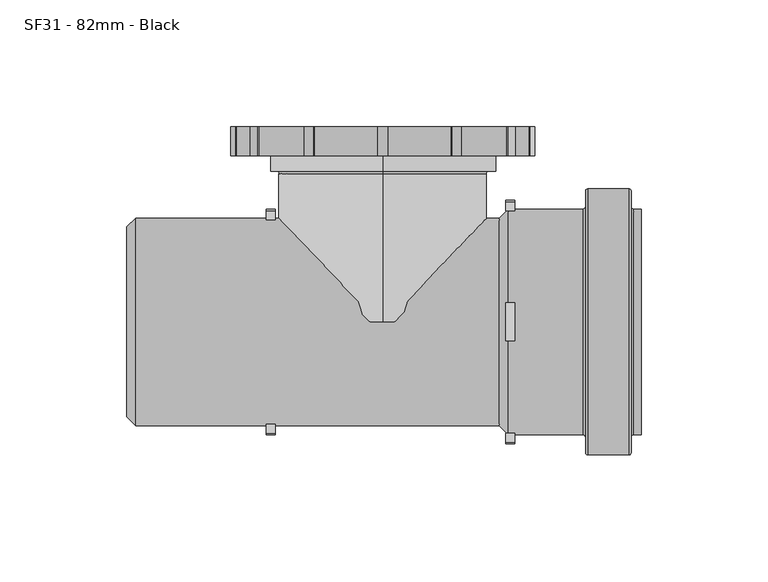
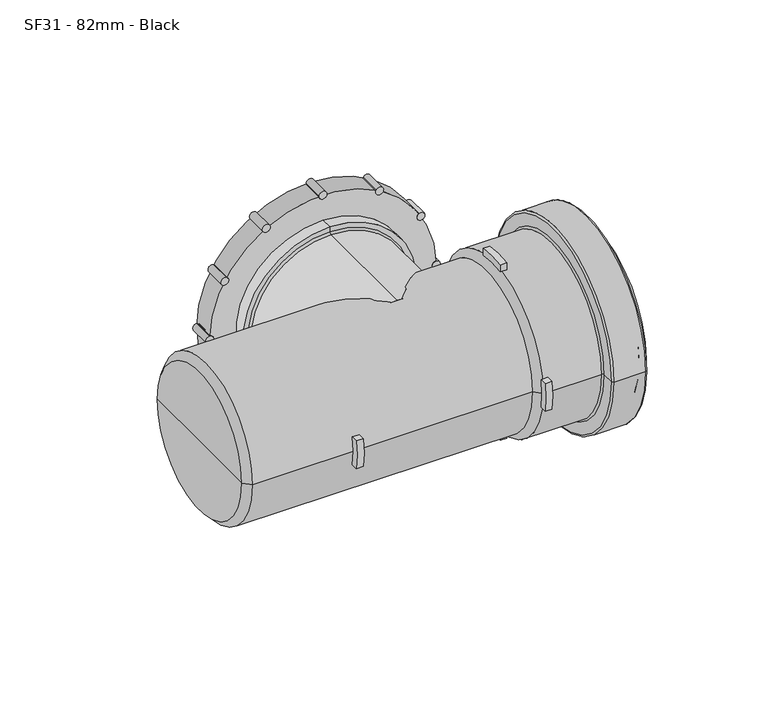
"""IFC4 building model written with IfcOpenShell, lengths in millimetres: pipe fitting geometry, MarleyPlumbingAndDrainage_PipeFitting_AccessPipe_SF31 : SF31 - 82mm - Black."""

from ifc_helpers import new_model, si_unit, point, frame, frame_2d, origin, origin_2d, place, context, project, spatial, polyline, circle_curve, ellipse_curve, trimmed, segment, composite_curve, outline, extrude, source, transform, mapped, element, save
from ifc_brep_helpers import plane_surface, cylinder_surface, revolved_surface, advanced_brep


def sf31_82mm_black_a28e41e7(model_context):
    return source(origin(), model_context, "Body", "SolidModel", [
        extrude(outline(composite_curve([segment(trimmed(circle_curve(frame_2d((29.0, -563.5247898)), 2.0), [point((30.7320508, -562.5247898))], [point((27.2679492, -564.5247898))], False, "CARTESIAN"), True, "CONTINUOUS"), segment(trimmed(circle_curve(frame_2d((29.0, -563.5247898)), 2.0), [point((27.2679492, -564.5247898))], [point((30.7320508, -562.5247898))], False, "CARTESIAN"), True, "CONTINUOUS")], self_intersect=False)), frame((0.0, 65.5, 0.0), z_axis=(0.0, 1.0, 0.0), x_axis=(0.0, 0.0, 1.0)), (0.0, 0.0, 1.0), 11.5),
        extrude(outline(composite_curve([segment(trimmed(circle_curve(frame_2d((0.0, -571.2953164)), 2.0), [point((2.0, -571.2953164))], [point((-2.0, -571.2953164))], False, "CARTESIAN"), True, "CONTINUOUS"), segment(trimmed(circle_curve(frame_2d((0.0, -571.2953164)), 2.0), [point((-2.0, -571.2953164))], [point((2.0, -571.2953164))], False, "CARTESIAN"), True, "CONTINUOUS")], self_intersect=False)), frame((0.0, 65.5, 0.0), z_axis=(0.0, 1.0, 0.0), x_axis=(0.0, 0.0, 1.0)), (0.0, 0.0, 1.0), 11.5),
        extrude(outline(composite_curve([segment(trimmed(circle_curve(frame_2d((-29.0, -563.5247898)), 2.0), [point((-27.2679492, -564.5247898))], [point((-30.7320508, -562.5247898))], False, "CARTESIAN"), True, "CONTINUOUS"), segment(trimmed(circle_curve(frame_2d((-29.0, -563.5247898)), 2.0), [point((-30.7320508, -562.5247898))], [point((-27.2679492, -564.5247898))], False, "CARTESIAN"), True, "CONTINUOUS")], self_intersect=False)), frame((0.0, 65.5, 0.0), z_axis=(0.0, 1.0, 0.0), x_axis=(0.0, 0.0, 1.0)), (0.0, 0.0, 1.0), 11.5),
        extrude(outline(composite_curve([segment(trimmed(circle_curve(frame_2d((-50.2294734, -542.2953164)), 2.0), [point((-49.2294734, -544.0273672))], [point((-51.2294734, -540.5632656))], False, "CARTESIAN"), True, "CONTINUOUS"), segment(trimmed(circle_curve(frame_2d((-50.2294734, -542.2953164)), 2.0), [point((-51.2294734, -540.5632656))], [point((-49.2294734, -544.0273672))], False, "CARTESIAN"), True, "CONTINUOUS")], self_intersect=False)), frame((0.0, 65.5, 0.0), z_axis=(0.0, 1.0, 0.0), x_axis=(0.0, 0.0, 1.0)), (0.0, 0.0, 1.0), 11.5),
        extrude(outline(composite_curve([segment(trimmed(circle_curve(frame_2d((-58.0, -513.2953164)), 2.0), [point((-58.0, -515.2953164))], [point((-58.0, -511.2953164))], False, "CARTESIAN"), True, "CONTINUOUS"), segment(trimmed(circle_curve(frame_2d((-58.0, -513.2953164)), 2.0), [point((-58.0, -511.2953164))], [point((-58.0, -515.2953164))], False, "CARTESIAN"), True, "CONTINUOUS")], self_intersect=False)), frame((0.0, 65.5, 0.0), z_axis=(0.0, 1.0, 0.0), x_axis=(0.0, 0.0, 1.0)), (0.0, 0.0, 1.0), 11.5),
        extrude(outline(composite_curve([segment(trimmed(circle_curve(frame_2d((-50.2294734, -484.2953164)), 2.0), [point((-51.2294734, -486.0273672))], [point((-49.2294734, -482.5632656))], False, "CARTESIAN"), True, "CONTINUOUS"), segment(trimmed(circle_curve(frame_2d((-50.2294734, -484.2953164)), 2.0), [point((-49.2294734, -482.5632656))], [point((-51.2294734, -486.0273672))], False, "CARTESIAN"), True, "CONTINUOUS")], self_intersect=False)), frame((0.0, 65.5, 0.0), z_axis=(0.0, 1.0, 0.0), x_axis=(0.0, 0.0, 1.0)), (0.0, 0.0, 1.0), 11.5),
        extrude(outline(composite_curve([segment(trimmed(circle_curve(frame_2d((-29.0, -463.065843)), 2.0), [point((-30.7320508, -464.065843))], [point((-27.2679492, -462.065843))], False, "CARTESIAN"), True, "CONTINUOUS"), segment(trimmed(circle_curve(frame_2d((-29.0, -463.065843)), 2.0), [point((-27.2679492, -462.065843))], [point((-30.7320508, -464.065843))], False, "CARTESIAN"), True, "CONTINUOUS")], self_intersect=False)), frame((0.0, 65.5, 0.0), z_axis=(0.0, 1.0, 0.0), x_axis=(0.0, 0.0, 1.0)), (0.0, 0.0, 1.0), 11.5),
        extrude(outline(composite_curve([segment(trimmed(circle_curve(frame_2d((0.0, -455.2953164)), 2.0), [point((-2.0, -455.2953164))], [point((2.0, -455.2953164))], False, "CARTESIAN"), True, "CONTINUOUS"), segment(trimmed(circle_curve(frame_2d((0.0, -455.2953164)), 2.0), [point((2.0, -455.2953164))], [point((-2.0, -455.2953164))], False, "CARTESIAN"), True, "CONTINUOUS")], self_intersect=False)), frame((0.0, 65.5, 0.0), z_axis=(0.0, 1.0, 0.0), x_axis=(0.0, 0.0, 1.0)), (0.0, 0.0, 1.0), 11.5),
        extrude(outline(composite_curve([segment(trimmed(circle_curve(frame_2d((29.0, -463.065843)), 2.0), [point((27.2679492, -462.065843))], [point((30.7320508, -464.065843))], False, "CARTESIAN"), True, "CONTINUOUS"), segment(trimmed(circle_curve(frame_2d((29.0, -463.065843)), 2.0), [point((30.7320508, -464.065843))], [point((27.2679492, -462.065843))], False, "CARTESIAN"), True, "CONTINUOUS")], self_intersect=False)), frame((0.0, 65.5, 0.0), z_axis=(0.0, 1.0, 0.0), x_axis=(0.0, 0.0, 1.0)), (0.0, 0.0, 1.0), 11.5),
        extrude(outline(composite_curve([segment(trimmed(circle_curve(frame_2d((50.2294734, -484.2953164)), 2.0), [point((49.2294734, -482.5632656))], [point((51.2294734, -486.0273672))], False, "CARTESIAN"), True, "CONTINUOUS"), segment(trimmed(circle_curve(frame_2d((50.2294734, -484.2953164)), 2.0), [point((51.2294734, -486.0273672))], [point((49.2294734, -482.5632656))], False, "CARTESIAN"), True, "CONTINUOUS")], self_intersect=False)), frame((0.0, 65.5, 0.0), z_axis=(0.0, 1.0, 0.0), x_axis=(0.0, 0.0, 1.0)), (0.0, 0.0, 1.0), 11.5),
        extrude(outline(composite_curve([segment(trimmed(circle_curve(frame_2d((50.2294734, -542.2953164)), 2.0), [point((51.2294734, -540.5632656))], [point((49.2294734, -544.0273672))], False, "CARTESIAN"), True, "CONTINUOUS"), segment(trimmed(circle_curve(frame_2d((50.2294734, -542.2953164)), 2.0), [point((49.2294734, -544.0273672))], [point((51.2294734, -540.5632656))], False, "CARTESIAN"), True, "CONTINUOUS")], self_intersect=False)), frame((0.0, 65.5, 0.0), z_axis=(0.0, 1.0, 0.0), x_axis=(0.0, 0.0, 1.0)), (0.0, 0.0, 1.0), 11.5),
        extrude(outline(composite_curve([segment(trimmed(circle_curve(frame_2d((58.0, -513.2953164)), 2.0), [point((58.0, -511.2953164))], [point((58.0, -515.2953164))], False, "CARTESIAN"), True, "CONTINUOUS"), segment(trimmed(circle_curve(frame_2d((58.0, -513.2953164)), 2.0), [point((58.0, -515.2953164))], [point((58.0, -511.2953164))], False, "CARTESIAN"), True, "CONTINUOUS")], self_intersect=False)), frame((0.0, 65.5, 0.0), z_axis=(0.0, 1.0, 0.0), x_axis=(0.0, 0.0, 1.0)), (0.0, 0.0, 1.0), 11.5),
        advanced_brep(
        [(-455.2953164, 77.0, 0.0), (-571.2953164, 77.0, 0.0), (-492.4390693, 77.0, -50.3514345), (-493.7784613, 77.0, -47.1178562), (-532.8121714, 77.0, -47.1178562), (-534.1515635, 77.0, -50.3514345), (-563.6467509, 77.0, -20.8562471), (-560.4131726, 77.0, -19.5168551), (-560.4131726, 77.0, 19.5168551), (-563.6467509, 77.0, 20.8562471), (-466.1774602, 77.0, 19.5168551), (-466.1774602, 77.0, -19.5168551), (-462.9438819, 77.0, -20.8562471), (-462.9438819, 77.0, 20.8562471), (-493.7784613, 77.0, 47.1178562), (-492.4390693, 77.0, 50.3514345), (-534.1515635, 77.0, 50.3514345), (-532.8121714, 77.0, 47.1178562), (-455.2953164, 65.5, 0.0), (-571.2953164, 65.5, 0.0), (-513.2953164, 65.5, -44.5), (-513.2953164, 65.5, 44.5), (-493.7784613, 71.0, -47.1178562), (-492.4390693, 71.0, -50.3514345), (-534.1515635, 71.0, -50.3514345), (-532.8121714, 71.0, -47.1178562), (-560.4131726, 71.0, -19.5168551), (-563.6467509, 71.0, -20.8562471), (-563.6467509, 71.0, 20.8562471), (-560.4131726, 71.0, 19.5168551), (-466.1774602, 71.0, -19.5168551), (-466.1774602, 71.0, 19.5168551), (-462.9438819, 71.0, 20.8562471), (-462.9438819, 71.0, -20.8562471), (-492.4390693, 71.0, 50.3514345), (-493.7784613, 71.0, 47.1178562), (-532.8121714, 71.0, 47.1178562), (-534.1515635, 71.0, 50.3514345), (-513.2953164, 59.5, -44.5), (-513.2953164, 59.5, 44.5), (-513.2953164, 59.5, -42.0), (-513.2953164, 59.5, 42.0), (-513.2953164, 58.5, -41.0), (-513.2953164, 58.5, 41.0), (-513.2953164, 0.0, -41.0), (-513.2953164, 0.0, 41.0), (-513.2953164, 0.0, 0.0)],
        [
            (0, 1, circle_curve(frame((-513.2953164, 77.0, 0.0), z_axis=(0.0, 1.0, 0.0), x_axis=(-1.0000000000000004, 0.0, 0.0)), 58.0)),
            (1, 0, circle_curve(frame((-513.2953164, 77.0, 0.0), z_axis=(0.0, 1.0, 0.0), x_axis=(-1.0000000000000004, 0.0, 0.0)), 58.0)),
            (2, 3),
            (3, 4, circle_curve(frame((-513.2953164, 77.0, 0.0), z_axis=(0.0, 1.0, 0.0), x_axis=(-1.0000000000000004, 0.0, 0.0)), 51.0)),
            (4, 5),
            (5, 2, circle_curve(frame((-513.2953164, 77.0, 0.0), z_axis=(0.0, -1.0, 0.0), x_axis=(-1.0000000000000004, 0.0, 0.0)), 54.5)),
            (6, 7),
            (7, 8, circle_curve(frame((-513.2953164, 77.0, 0.0), z_axis=(0.0, 1.0, 0.0), x_axis=(-1.0000000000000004, 0.0, 0.0)), 51.0)),
            (8, 9),
            (9, 6, circle_curve(frame((-513.2953164, 77.0, 0.0), z_axis=(0.0, -1.0, 0.0), x_axis=(-1.0000000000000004, 0.0, 0.0)), 54.5)),
            (10, 11, circle_curve(frame((-513.2953164, 77.0, 0.0), z_axis=(0.0, 1.0, 0.0), x_axis=(-1.0000000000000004, 0.0, 0.0)), 51.0)),
            (11, 12),
            (12, 13, circle_curve(frame((-513.2953164, 77.0, 0.0), z_axis=(0.0, -1.0, 0.0), x_axis=(-1.0000000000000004, 0.0, 0.0)), 54.5)),
            (13, 10),
            (14, 15),
            (15, 16, circle_curve(frame((-513.2953164, 77.0, 0.0), z_axis=(0.0, -1.0, 0.0), x_axis=(-1.0000000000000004, 0.0, 0.0)), 54.5)),
            (16, 17),
            (17, 14, circle_curve(frame((-513.2953164, 77.0, 0.0), z_axis=(0.0, 1.0, 0.0), x_axis=(-1.0000000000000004, 0.0, 0.0)), 51.0)),
            (18, 19, circle_curve(frame((-513.2953164, 65.5, 0.0), z_axis=(0.0, -1.0, 0.0), x_axis=(-1.0000000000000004, 0.0, 0.0)), 58.0)),
            (19, 18, circle_curve(frame((-513.2953164, 65.5, 0.0), z_axis=(0.0, -1.0, 0.0), x_axis=(-1.0000000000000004, 0.0, 0.0)), 58.0)),
            (20, 21, circle_curve(frame((-513.2953164, 65.5, 0.0), z_axis=(0.0, 1.0, 0.0), x_axis=(0.0, 0.0, 1.0000000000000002)), 44.5)),
            (21, 20, circle_curve(frame((-513.2953164, 65.5, 0.0), z_axis=(0.0, 1.0, 0.0), x_axis=(0.0, 0.0, 1.0000000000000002)), 44.5)),
            (0, 18),
            (19, 1),
            (22, 23),
            (23, 24, circle_curve(frame((-513.2953164, 71.0, 0.0), z_axis=(0.0, 1.0, 0.0), x_axis=(-1.0000000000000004, 0.0, 0.0)), 54.5)),
            (24, 25),
            (25, 22, circle_curve(frame((-513.2953164, 71.0, 0.0), z_axis=(0.0, -1.0, 0.0), x_axis=(-1.0000000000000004, 0.0, 0.0)), 51.0)),
            (26, 27),
            (27, 28, circle_curve(frame((-513.2953164, 71.0, 0.0), z_axis=(0.0, 1.0, 0.0), x_axis=(-1.0000000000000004, 0.0, 0.0)), 54.5)),
            (28, 29),
            (29, 26, circle_curve(frame((-513.2953164, 71.0, 0.0), z_axis=(0.0, -1.0, 0.0), x_axis=(-1.0000000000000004, 0.0, 0.0)), 51.0)),
            (30, 31, circle_curve(frame((-513.2953164, 71.0, 0.0), z_axis=(0.0, -1.0, 0.0), x_axis=(-1.0000000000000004, 0.0, 0.0)), 51.0)),
            (31, 32),
            (32, 33, circle_curve(frame((-513.2953164, 71.0, 0.0), z_axis=(0.0, 1.0, 0.0), x_axis=(-1.0000000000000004, 0.0, 0.0)), 54.5)),
            (33, 30),
            (34, 35),
            (35, 36, circle_curve(frame((-513.2953164, 71.0, 0.0), z_axis=(0.0, -1.0, 0.0), x_axis=(-1.0000000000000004, 0.0, 0.0)), 51.0)),
            (36, 37),
            (37, 34, circle_curve(frame((-513.2953164, 71.0, 0.0), z_axis=(0.0, 1.0, 0.0), x_axis=(-1.0000000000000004, 0.0, 0.0)), 54.5)),
            (22, 3),
            (2, 23),
            (5, 24),
            (4, 25),
            (26, 7),
            (6, 27),
            (9, 28),
            (8, 29),
            (30, 11),
            (10, 31),
            (13, 32),
            (12, 33),
            (34, 15),
            (14, 35),
            (17, 36),
            (16, 37),
            (38, 39, circle_curve(frame((-513.2953164, 59.5, 0.0), z_axis=(0.0, 1.0, 0.0), x_axis=(0.0, 0.0, 1.0000000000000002)), 44.5)),
            (39, 21),
            (20, 38),
            (39, 38, circle_curve(frame((-513.2953164, 59.5, 0.0), z_axis=(0.0, 1.0, 0.0), x_axis=(0.0, 0.0, 1.0000000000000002)), 44.5)),
            (38, 40),
            (40, 41, circle_curve(frame((-513.2953164, 59.5, 0.0), z_axis=(0.0, 1.0, 0.0), x_axis=(0.0, 0.0, 1.0000000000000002)), 42.0)),
            (41, 39),
            (41, 40, circle_curve(frame((-513.2953164, 59.5, 0.0), z_axis=(0.0, 1.0, 0.0), x_axis=(0.0, 0.0, 1.0000000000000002)), 42.0)),
            (40, 42, circle_curve(frame((-513.2953164, 58.5, -42.0), z_axis=(1.0000000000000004, 0.0, 0.0), x_axis=(0.0, 1.0000000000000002, 0.0)), 1.0)),
            (42, 43, circle_curve(frame((-513.2953164, 58.5, 0.0), z_axis=(0.0, 1.0, 0.0), x_axis=(0.0, 0.0, 1.0000000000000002)), 41.0)),
            (43, 41, circle_curve(frame((-513.2953164, 58.5, 42.0), z_axis=(1.0000000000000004, 0.0, 0.0), x_axis=(0.0, 1.0000000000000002, 0.0)), 1.0)),
            (43, 42, circle_curve(frame((-513.2953164, 58.5, 0.0), z_axis=(0.0, 1.0, 0.0), x_axis=(0.0, 0.0, 1.0000000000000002)), 41.0)),
            (42, 44),
            (44, 45, circle_curve(frame((-513.2953164, 0.0, 0.0), z_axis=(0.0, 1.0, 0.0), x_axis=(0.0, 0.0, 1.0000000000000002)), 41.0)),
            (45, 43),
            (45, 44, circle_curve(frame((-513.2953164, 0.0, 0.0), z_axis=(0.0, 1.0, 0.0), x_axis=(0.0, 0.0, 1.0000000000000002)), 41.0)),
            (44, 46),
            (46, 45),
        ],
        [
            plane_surface(frame((-571.2953164, 77.0, 0.0), z_axis=(0.0, 1.0, 0.0), x_axis=(0.0, 0.0, 1.0))),
            plane_surface(frame((-571.2953164, 65.5, 0.0), z_axis=(0.0, -1.0, 0.0), x_axis=(0.0, 0.0, -1.0))),
            cylinder_surface(frame((-513.2953164, 65.5, 0.0), z_axis=(0.0, 1.0000000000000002, 0.0), x_axis=(-1.0000000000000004, 0.0, 0.0)), 58.0),
            plane_surface(frame((-492.4390693, 71.0, -50.3514345), z_axis=(0.0, 1.0, 0.0), x_axis=(-0.3826834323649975, 0.0, 0.923879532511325))),
            plane_surface(frame((-493.7784613, 77.0, -47.1178562), z_axis=(-0.923879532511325, 0.0, -0.3826834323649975), x_axis=(0.0, -1.0, 0.0))),
            revolved_surface(polyline([(-567.7953164, 77.0, 0.0), (-567.7953164, 71.0, 0.0)]), (-513.2953164, 71.0, 0.0), (0.0, 1.0000000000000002, 0.0)),
            plane_surface(frame((-534.1515635, 77.0, -50.3514345), z_axis=(0.9238795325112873, 0.0, -0.3826834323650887), x_axis=(0.0, -1.0, 0.0))),
            cylinder_surface(frame((-513.2953164, 71.0, 0.0), z_axis=(0.0, -1.0000000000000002, 0.0), x_axis=(-1.0000000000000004, 0.0, 0.0)), 51.0),
            plane_surface(frame((-560.4131726, 77.0, -19.5168551), z_axis=(-0.3826834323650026, 0.0, 0.9238795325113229), x_axis=(0.0, -1.0, 0.0))),
            revolved_surface(polyline([(-567.7953164, 77.0, 0.0), (-567.7953164, 71.0, 0.0)]), (-513.2953164, 65.5, 0.0), (0.0, 1.0000000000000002, 0.0)),
            plane_surface(frame((-563.6467509, 77.0, 20.8562471), z_axis=(-0.38268343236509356, 0.0, -0.9238795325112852), x_axis=(0.0, -1.0, 0.0))),
            cylinder_surface(frame((-513.2953164, 65.5, 0.0), z_axis=(0.0, -1.0000000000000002, 0.0), x_axis=(-1.0000000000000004, 0.0, 0.0)), 51.0),
            plane_surface(frame((-466.1774602, 77.0, 19.5168551), z_axis=(0.3826834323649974, 0.0, -0.923879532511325), x_axis=(0.0, -1.0, 0.0))),
            plane_surface(frame((-462.9438819, 77.0, -20.8562471), z_axis=(0.3826834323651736, 0.0, 0.923879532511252), x_axis=(0.0, -1.0, 0.0))),
            plane_surface(frame((-492.4390693, 77.0, 50.3514345), z_axis=(-0.9238795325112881, 0.0, 0.38268343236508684), x_axis=(0.0, -1.0, 0.0))),
            plane_surface(frame((-532.8121714, 77.0, 47.1178562), z_axis=(0.9238795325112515, 0.0, 0.382683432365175), x_axis=(0.0, -1.0, 0.0))),
            cylinder_surface(frame((-513.2953164, -1158.344146, 0.0), z_axis=(0.0, -1.0000000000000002, 0.0), x_axis=(0.0, 0.0, 1.0000000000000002)), 44.5),
            plane_surface(frame((-513.2953164, 59.5, 0.0), z_axis=(0.0, -1.0, 0.0), x_axis=(0.0, 0.0, 1.0))),
            revolved_surface(trimmed(ellipse_curve(frame((-513.2953164, 58.5, 42.0), z_axis=(-1.0000000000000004, 0.0, 0.0), x_axis=(0.0, 1.0000000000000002, 0.0)), 1.0, 1.0), [point((-513.2953164, 59.5, 42.0))], [point((-513.2953164, 58.5, 41.0))], True, "CARTESIAN"), (-513.2953164, -1158.344146, 0.0), (0.0, -1.0000000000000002, 0.0)),
            cylinder_surface(frame((-513.2953164, -1158.344146, 0.0), z_axis=(0.0, -1.0000000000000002, 0.0), x_axis=(0.0, 0.0, 1.0000000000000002)), 41.0),
            plane_surface(frame((-513.2953164, 0.0, 0.0), z_axis=(0.0, -1.0, 0.0), x_axis=(0.0, 0.0, 1.0))),
        ],
        [
            (0, [[1, 2], [3, 4, 5, 6], [7, 8, 9, 10], [11, 12, 13, 14], [15, 16, 17, 18]]),
            (1, [[19, 20], [21, 22]]),
            (2, [[-1, 23, -20, 24]]),
            (2, [[-2, -24, -19, -23]]),
            (3, [[25, 26, 27, 28]]),
            (3, [[29, 30, 31, 32]]),
            (3, [[33, 34, 35, 36]]),
            (3, [[37, 38, 39, 40]]),
            (4, [[-25, 41, -3, 42]]),
            (5, [[-26, -42, -6, 43]]),
            (6, [[-27, -43, -5, 44]]),
            (7, [[-28, -44, -4, -41]]),
            (8, [[-29, 45, -7, 46]]),
            (9, [[-30, -46, -10, 47]]),
            (10, [[-31, -47, -9, 48]]),
            (11, [[-32, -48, -8, -45]]),
            (11, [[-33, 49, -11, 50]]),
            (12, [[-34, -50, -14, 51]]),
            (9, [[-35, -51, -13, 52]]),
            (13, [[-36, -52, -12, -49]]),
            (14, [[-37, 53, -15, 54]]),
            (11, [[-38, -54, -18, 55]]),
            (15, [[-39, -55, -17, 56]]),
            (9, [[-40, -56, -16, -53]]),
            (16, [[57, 58, -21, 59]]),
            (16, [[-58, 60, -59, -22]]),
            (17, [[-57, 61, 62, 63]]),
            (17, [[-60, -63, 64, -61]]),
            (18, [[-62, 65, 66, 67]]),
            (18, [[-64, -67, 68, -65]]),
            (19, [[-66, 69, 70, 71]]),
            (19, [[-68, -71, 72, -69]]),
            (20, [[-70, 73, 74]]),
            (20, [[-72, -74, -73]]),
        ],
    ),
        extrude(outline(composite_curve([segment(trimmed(circle_curve(origin_2d(), 41.0), [point((-7.5, -40.3081878))], [point((7.5, -40.3081878))], True, "CARTESIAN"), True, "CONTINUOUS"), segment(polyline([(7.5, -40.3081878), (7.5, -43.8634244)]), True, "CONTINUOUS"), segment(trimmed(circle_curve(origin_2d(), 44.5), [point((7.5, -43.8634244))], [point((-7.5, -43.8634244))], False, "CARTESIAN"), True, "CONTINUOUS"), segment(polyline([(-7.5, -43.8634244), (-7.5, -40.3081878)]), True, "CONTINUOUS")], self_intersect=False)), frame((-559.2953164, 0.0, 0.0), z_axis=(1.0, 0.0, 0.0), x_axis=(0.0, 1.0, 0.0)), (0.0, 0.0, 1.0), 3.5),
        extrude(outline(composite_curve([segment(polyline([(40.3081878, 7.5), (43.8634244, 7.5)]), True, "CONTINUOUS"), segment(trimmed(circle_curve(origin_2d(), 44.5), [point((43.8634244, 7.5))], [point((43.8634244, -7.5))], False, "CARTESIAN"), True, "CONTINUOUS"), segment(polyline([(43.8634244, -7.5), (40.3081878, -7.5)]), True, "CONTINUOUS"), segment(trimmed(circle_curve(origin_2d(), 41.0), [point((40.3081878, -7.5))], [point((40.3081878, 7.5))], True, "CARTESIAN"), True, "CONTINUOUS")], self_intersect=False)), frame((-559.2953164, 0.0, 0.0), z_axis=(1.0, 0.0, 0.0), x_axis=(0.0, 1.0, 0.0)), (0.0, 0.0, 1.0), 3.5),
        extrude(outline(composite_curve([segment(polyline([(-43.8634244, 7.5), (-40.3081878, 7.5)]), True, "CONTINUOUS"), segment(trimmed(circle_curve(origin_2d(), 41.0), [point((-40.3081878, 7.5))], [point((-40.3081878, -7.5))], True, "CARTESIAN"), True, "CONTINUOUS"), segment(polyline([(-40.3081878, -7.5), (-43.8634244, -7.5)]), True, "CONTINUOUS"), segment(trimmed(circle_curve(origin_2d(), 44.5), [point((-43.8634244, -7.5))], [point((-43.8634244, 7.5))], False, "CARTESIAN"), True, "CONTINUOUS")], self_intersect=False)), frame((-559.2953164, 0.0, 0.0), z_axis=(1.0, 0.0, 0.0), x_axis=(0.0, 1.0, 0.0)), (0.0, 0.0, 1.0), 3.5),
        extrude(outline(composite_curve([segment(trimmed(circle_curve(origin_2d(), 48.0), [point((-7.5, 47.4104419))], [point((7.5, 47.4104419))], False, "CARTESIAN"), True, "CONTINUOUS"), segment(polyline([(7.5, 47.4104419), (7.5, 43.8634244)]), True, "CONTINUOUS"), segment(trimmed(circle_curve(origin_2d(), 44.5), [point((7.5, 43.8634244))], [point((-7.5, 43.8634244))], True, "CARTESIAN"), True, "CONTINUOUS"), segment(polyline([(-7.5, 43.8634244), (-7.5, 47.4104419)]), True, "CONTINUOUS")], self_intersect=False)), frame((-464.7953164, 0.0, 0.0), z_axis=(1.0, 0.0, 0.0), x_axis=(0.0, 1.0, 0.0)), (0.0, 0.0, 1.0), 3.5),
        extrude(outline(composite_curve([segment(polyline([(43.8634244, 7.5), (47.4104419, 7.5)]), True, "CONTINUOUS"), segment(trimmed(circle_curve(origin_2d(), 48.0), [point((47.4104419, 7.5))], [point((47.4104419, -7.5))], False, "CARTESIAN"), True, "CONTINUOUS"), segment(polyline([(47.4104419, -7.5), (43.8634244, -7.5)]), True, "CONTINUOUS"), segment(trimmed(circle_curve(origin_2d(), 44.5), [point((43.8634244, -7.5))], [point((43.8634244, 7.5))], True, "CARTESIAN"), True, "CONTINUOUS")], self_intersect=False)), frame((-464.7953164, 0.0, 0.0), z_axis=(1.0, 0.0, 0.0), x_axis=(0.0, 1.0, 0.0)), (0.0, 0.0, 1.0), 3.5),
        extrude(outline(composite_curve([segment(trimmed(circle_curve(origin_2d(), 48.0), [point((-47.4104419, -7.5))], [point((-47.4104419, 7.5))], False, "CARTESIAN"), True, "CONTINUOUS"), segment(polyline([(-47.4104419, 7.5), (-43.8634244, 7.5)]), True, "CONTINUOUS"), segment(trimmed(circle_curve(origin_2d(), 44.5), [point((-43.8634244, 7.5))], [point((-43.8634244, -7.5))], True, "CARTESIAN"), True, "CONTINUOUS"), segment(polyline([(-43.8634244, -7.5), (-47.4104419, -7.5)]), True, "CONTINUOUS")], self_intersect=False)), frame((-464.7953164, 0.0, 0.0), z_axis=(1.0, 0.0, 0.0), x_axis=(0.0, 1.0, 0.0)), (0.0, 0.0, 1.0), 3.5),
        extrude(outline(composite_curve([segment(polyline([(-7.5, -47.4104419), (-7.5, -43.8634244)]), True, "CONTINUOUS"), segment(trimmed(circle_curve(origin_2d(), 44.5), [point((-7.5, -43.8634244))], [point((7.5, -43.8634244))], True, "CARTESIAN"), True, "CONTINUOUS"), segment(polyline([(7.5, -43.8634244), (7.5, -47.4104419)]), True, "CONTINUOUS"), segment(trimmed(circle_curve(origin_2d(), 48.0), [point((7.5, -47.4104419))], [point((-7.5, -47.4104419))], False, "CARTESIAN"), True, "CONTINUOUS")], self_intersect=False)), frame((-464.7953164, 0.0, 0.0), z_axis=(1.0, 0.0, 0.0), x_axis=(0.0, 1.0, 0.0)), (0.0, 0.0, 1.0), 3.5),
        advanced_brep(
        [(-414.2953164, -44.5, 0.0), (-414.2953164, 44.5, 0.0), (-411.2953164, 44.5, 0.0), (-411.2953164, -44.5, 0.0), (-415.2953164, -51.5, 0.0), (-415.2953164, 51.5, 0.0), (-415.2953164, 45.5, 0.0), (-415.2953164, -45.5, 0.0), (-432.2953164, -52.5, 0.0), (-432.2953164, 52.5, 0.0), (-416.2953164, 52.5, 0.0), (-416.2953164, -52.5, 0.0), (-433.2953164, -45.5, 0.0), (-433.2953164, 45.5, 0.0), (-433.2953164, 51.5, 0.0), (-433.2953164, -51.5, 0.0), (-463.7953164, -44.5, 0.0), (-463.7953164, 44.5, 0.0), (-434.2953164, 44.5, 0.0), (-434.2953164, -44.5, 0.0), (-467.2953164, -41.0, 0.0), (-467.2953164, 41.0, 0.0), (-610.7953164, -41.0, 0.0), (-610.7953164, 41.0, 0.0), (-614.2953164, -37.5, 0.0), (-614.2953164, 37.5, 0.0), (-463.7953164, -41.0, 0.0), (-463.7953164, 41.0, 0.0), (-463.7953164, 0.0, 0.0), (-411.2953164, -41.0, 0.0), (-411.2953164, 41.0, 0.0), (-614.2953164, 0.0, 0.0)],
        [
            (0, 1, circle_curve(frame((-414.2953164, 0.0, 0.0), z_axis=(1.0, 0.0, 0.0), x_axis=(0.0, 1.0, 0.0)), 44.5)),
            (1, 2),
            (2, 3, circle_curve(frame((-411.2953164, 0.0, 0.0), z_axis=(-1.0, 0.0, 0.0), x_axis=(0.0, 1.0, 0.0)), 44.5)),
            (3, 0),
            (1, 0, circle_curve(frame((-414.2953164, 0.0, 0.0), z_axis=(1.0, 0.0, 0.0), x_axis=(0.0, 1.0, 0.0)), 44.5)),
            (3, 2, circle_curve(frame((-411.2953164, 0.0, 0.0), z_axis=(-1.0, 0.0, 0.0), x_axis=(0.0, 1.0, 0.0)), 44.5)),
            (4, 5, circle_curve(frame((-415.2953164, 0.0, 0.0), z_axis=(1.0, 0.0, 0.0), x_axis=(0.0, 1.0, 0.0)), 51.5)),
            (5, 6),
            (6, 7, circle_curve(frame((-415.2953164, 0.0, 0.0), z_axis=(-1.0, 0.0, 0.0), x_axis=(0.0, 1.0, 0.0)), 45.5)),
            (7, 4),
            (5, 4, circle_curve(frame((-415.2953164, 0.0, 0.0), z_axis=(1.0, 0.0, 0.0), x_axis=(0.0, 1.0, 0.0)), 51.5)),
            (7, 6, circle_curve(frame((-415.2953164, 0.0, 0.0), z_axis=(-1.0, 0.0, 0.0), x_axis=(0.0, 1.0, 0.0)), 45.5)),
            (8, 9, circle_curve(frame((-432.2953164, 0.0, 0.0), z_axis=(1.0, 0.0, 0.0), x_axis=(0.0, 1.0, 0.0)), 52.5)),
            (9, 10),
            (10, 11, circle_curve(frame((-416.2953164, 0.0, 0.0), z_axis=(-1.0, 0.0, 0.0), x_axis=(0.0, 1.0, 0.0)), 52.5)),
            (11, 8),
            (9, 8, circle_curve(frame((-432.2953164, 0.0, 0.0), z_axis=(1.0, 0.0, 0.0), x_axis=(0.0, 1.0, 0.0)), 52.5)),
            (11, 10, circle_curve(frame((-416.2953164, 0.0, 0.0), z_axis=(-1.0, 0.0, 0.0), x_axis=(0.0, 1.0, 0.0)), 52.5)),
            (12, 13, circle_curve(frame((-433.2953164, 0.0, 0.0), z_axis=(1.0, 0.0, 0.0), x_axis=(0.0, 1.0, 0.0)), 45.5)),
            (13, 14),
            (14, 15, circle_curve(frame((-433.2953164, 0.0, 0.0), z_axis=(-1.0, 0.0, 0.0), x_axis=(0.0, 1.0, 0.0)), 51.5)),
            (15, 12),
            (13, 12, circle_curve(frame((-433.2953164, 0.0, 0.0), z_axis=(1.0, 0.0, 0.0), x_axis=(0.0, 1.0, 0.0)), 45.5)),
            (15, 14, circle_curve(frame((-433.2953164, 0.0, 0.0), z_axis=(-1.0, 0.0, 0.0), x_axis=(0.0, 1.0, 0.0)), 51.5)),
            (16, 17, circle_curve(frame((-463.7953164, 0.0, 0.0), z_axis=(1.0, 0.0, 0.0), x_axis=(0.0, 1.0, 0.0)), 44.5)),
            (17, 18),
            (18, 19, circle_curve(frame((-434.2953164, 0.0, 0.0), z_axis=(-1.0, 0.0, 0.0), x_axis=(0.0, 1.0, 0.0)), 44.5)),
            (19, 16),
            (17, 16, circle_curve(frame((-463.7953164, 0.0, 0.0), z_axis=(1.0, 0.0, 0.0), x_axis=(0.0, 1.0, 0.0)), 44.5)),
            (19, 18, circle_curve(frame((-434.2953164, 0.0, 0.0), z_axis=(-1.0, 0.0, 0.0), x_axis=(0.0, 1.0, 0.0)), 44.5)),
            (20, 21, circle_curve(frame((-467.2953164, 0.0, 0.0), z_axis=(1.0, 0.0, 0.0), x_axis=(0.0, 1.0, 0.0)), 41.0)),
            (21, 17),
            (16, 20),
            (21, 20, circle_curve(frame((-467.2953164, 0.0, 0.0), z_axis=(1.0, 0.0, 0.0), x_axis=(0.0, 1.0, 0.0)), 41.0)),
            (22, 23, circle_curve(frame((-610.7953164, 0.0, 0.0), z_axis=(1.0, 0.0, 0.0), x_axis=(0.0, 1.0, 0.0)), 41.0)),
            (23, 21),
            (20, 22),
            (23, 22, circle_curve(frame((-610.7953164, 0.0, 0.0), z_axis=(1.0, 0.0, 0.0), x_axis=(0.0, 1.0, 0.0)), 41.0)),
            (24, 25, circle_curve(frame((-614.2953164, 0.0, 0.0), z_axis=(1.0, 0.0, 0.0), x_axis=(0.0, 1.0, 0.0)), 37.5)),
            (25, 23),
            (22, 24),
            (25, 24, circle_curve(frame((-614.2953164, 0.0, 0.0), z_axis=(1.0, 0.0, 0.0), x_axis=(0.0, 1.0, 0.0)), 37.5)),
            (26, 27, circle_curve(frame((-463.7953164, 0.0, 0.0), z_axis=(1.0, 0.0, 0.0), x_axis=(0.0, 1.0, 0.0)), 41.0)),
            (27, 28),
            (28, 26),
            (27, 26, circle_curve(frame((-463.7953164, 0.0, 0.0), z_axis=(1.0, 0.0, 0.0), x_axis=(0.0, 1.0, 0.0)), 41.0)),
            (29, 30, circle_curve(frame((-411.2953164, 0.0, 0.0), z_axis=(1.0, 0.0, 0.0), x_axis=(0.0, 1.0, 0.0)), 41.0)),
            (30, 27),
            (26, 29),
            (30, 29, circle_curve(frame((-411.2953164, 0.0, 0.0), z_axis=(1.0, 0.0, 0.0), x_axis=(0.0, 1.0, 0.0)), 41.0)),
            (2, 30),
            (29, 3),
            (6, 1, circle_curve(frame((-414.2953164, 45.5, 0.0), z_axis=(0.0, 0.0, 1.0), x_axis=(1.0, 0.0, 0.0)), 1.0)),
            (0, 7, circle_curve(frame((-414.2953164, -45.5, 0.0), z_axis=(0.0, 0.0, 1.0), x_axis=(1.0, 0.0, 0.0)), 1.0)),
            (10, 5, circle_curve(frame((-416.2953164, 51.5, 0.0), z_axis=(0.0, 0.0, -1.0), x_axis=(1.0, 0.0, 0.0)), 1.0)),
            (4, 11, circle_curve(frame((-416.2953164, -51.5, 0.0), z_axis=(0.0, 0.0, -1.0), x_axis=(1.0, 0.0, 0.0)), 1.0)),
            (14, 9, circle_curve(frame((-432.2953164, 51.5, 0.0), z_axis=(0.0, 0.0, -1.0), x_axis=(1.0, 0.0, 0.0)), 1.0)),
            (8, 15, circle_curve(frame((-432.2953164, -51.5, 0.0), z_axis=(0.0, 0.0, -1.0), x_axis=(1.0, 0.0, 0.0)), 1.0)),
            (18, 13, circle_curve(frame((-434.2953164, 45.5, 0.0), z_axis=(0.0, 0.0, 1.0), x_axis=(1.0, 0.0, 0.0)), 1.0)),
            (12, 19, circle_curve(frame((-434.2953164, -45.5, 0.0), z_axis=(0.0, 0.0, 1.0), x_axis=(1.0, 0.0, 0.0)), 1.0)),
            (31, 25),
            (24, 31),
        ],
        [
            cylinder_surface(frame((2000.5, 0.0, 0.0), z_axis=(-1.0, 0.0, 0.0), x_axis=(0.0, 1.0, 0.0)), 44.5),
            plane_surface(frame((-415.2953164, 0.0, 0.0), z_axis=(1.0, 0.0, 0.0), x_axis=(0.0, 1.0, 0.0))),
            cylinder_surface(frame((2000.5, 0.0, 0.0), z_axis=(-1.0, 0.0, 0.0), x_axis=(0.0, 1.0, 0.0)), 52.5),
            plane_surface(frame((-433.2953164, 0.0, 0.0), z_axis=(-1.0, 0.0, 0.0), x_axis=(0.0, 1.0, 0.0))),
            revolved_surface(polyline([(-463.7953164, 44.5, 0.0), (-467.2953164, 41.0, 0.0)]), (2000.5, 0.0, 0.0), (-1.0, 0.0, 0.0)),
            cylinder_surface(frame((2000.5, 0.0, 0.0), z_axis=(-1.0, 0.0, 0.0), x_axis=(0.0, 1.0, 0.0)), 41.0),
            revolved_surface(polyline([(-610.7953164, 41.0, 0.0), (-614.2953164, 37.5, 0.0)]), (2000.5, 0.0, 0.0), (-1.0, 0.0, 0.0)),
            plane_surface(frame((-463.7953164, 0.0, 0.0), z_axis=(1.0, 0.0, 0.0), x_axis=(0.0, 1.0, 0.0))),
            revolved_surface(polyline([(-463.79531640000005, 41.0, 0.0), (-411.29531640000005, 41.0, 0.0)]), (2000.5, 0.0, 0.0), (-1.0, 0.0, 0.0)),
            plane_surface(frame((-411.2953164, 0.0, 0.0), z_axis=(1.0, 0.0, 0.0), x_axis=(0.0, 1.0, 0.0))),
            revolved_surface(trimmed(ellipse_curve(frame((-414.2953164, 45.5, 0.0), z_axis=(0.0, 0.0, -1.0), x_axis=(1.0, 0.0, 0.0)), 1.0, 1.0), [point((-414.2953164, 44.5, 0.0))], [point((-415.2953164, 45.5, 0.0))], True, "CARTESIAN"), (2000.5, 0.0, 0.0), (-1.0, 0.0, 0.0)),
            revolved_surface(trimmed(ellipse_curve(frame((-416.2953164, 51.5, 0.0), z_axis=(0.0, 0.0, 1.0), x_axis=(1.0, 0.0, 0.0)), 1.0, 1.0), [point((-415.2953164, 51.5, 0.0))], [point((-416.2953164, 52.5, 0.0))], True, "CARTESIAN"), (2000.5, 0.0, 0.0), (-1.0, 0.0, 0.0)),
            revolved_surface(trimmed(ellipse_curve(frame((-432.2953164, 51.5, 0.0), z_axis=(0.0, 0.0, 1.0), x_axis=(1.0, 0.0, 0.0)), 1.0, 1.0), [point((-432.2953164, 52.5, 0.0))], [point((-433.2953164, 51.5, 0.0))], True, "CARTESIAN"), (2000.5, 0.0, 0.0), (-1.0, 0.0, 0.0)),
            revolved_surface(trimmed(ellipse_curve(frame((-434.2953164, 45.5, 0.0), z_axis=(0.0, 0.0, -1.0), x_axis=(1.0, 0.0, 0.0)), 1.0, 1.0), [point((-433.2953164, 45.5, 0.0))], [point((-434.2953164, 44.5, 0.0))], True, "CARTESIAN"), (2000.5, 0.0, 0.0), (-1.0, 0.0, 0.0)),
            plane_surface(frame((-614.2953164, 0.0, 0.0), z_axis=(-1.0, 0.0, 0.0), x_axis=(0.0, 1.0, 0.0))),
        ],
        [
            (0, [[1, 2, 3, 4]]),
            (0, [[5, -4, 6, -2]]),
            (1, [[7, 8, 9, 10]]),
            (1, [[11, -10, 12, -8]]),
            (2, [[13, 14, 15, 16]]),
            (2, [[17, -16, 18, -14]]),
            (3, [[19, 20, 21, 22]]),
            (3, [[23, -22, 24, -20]]),
            (0, [[25, 26, 27, 28]]),
            (0, [[29, -28, 30, -26]]),
            (4, [[31, 32, -25, 33]]),
            (4, [[34, -33, -29, -32]]),
            (5, [[35, 36, -31, 37]]),
            (5, [[38, -37, -34, -36]]),
            (6, [[39, 40, -35, 41]]),
            (6, [[42, -41, -38, -40]]),
            (7, [[43, 44, 45]]),
            (7, [[46, -45, -44]]),
            (8, [[47, 48, -43, 49]]),
            (8, [[50, -49, -46, -48]]),
            (9, [[-3, 51, -47, 52]]),
            (9, [[-6, -52, -50, -51]]),
            (10, [[-9, 53, -1, 54]]),
            (10, [[-12, -54, -5, -53]]),
            (11, [[-15, 55, -7, 56]]),
            (11, [[-18, -56, -11, -55]]),
            (12, [[-21, 57, -13, 58]]),
            (12, [[-24, -58, -17, -57]]),
            (13, [[-27, 59, -19, 60]]),
            (13, [[-30, -60, -23, -59]]),
            (14, [[61, -39, 62]]),
            (14, [[-62, -42, -61]]),
        ],
    ),
    ])


if __name__ == "__main__":
    model = new_model("IFC4")
    model_context = context("Model", 3, world=origin())
    ifc_project = project(units=[si_unit("LENGTHUNIT", "METRE", prefix="MILLI")], contexts=[model_context])
    site = spatial("IfcSite", under=ifc_project)
    building = spatial("IfcBuilding", under=site)
    placement = place(None, origin())
    sf31_82mm_black_shape = sf31_82mm_black_a28e41e7(model_context)
    element("IfcPipeFitting", 1, ObjectType="MarleyPlumbingAndDrainage_PipeFitting_AccessPipe_SF31 : SF31 - 82mm - Black", at=placement, inside=building, context=model_context, shape_type="MappedRepresentation", body=[
        mapped(sf31_82mm_black_shape, transform((0.0, 0.0, 0.0), x_axis=(1.0, 0.0, 0.0), y_axis=(0.0, 1.0, 0.0), z_axis=(0.0, 0.0, 1.0))),
    ])
    save(model, "model.ifc")
